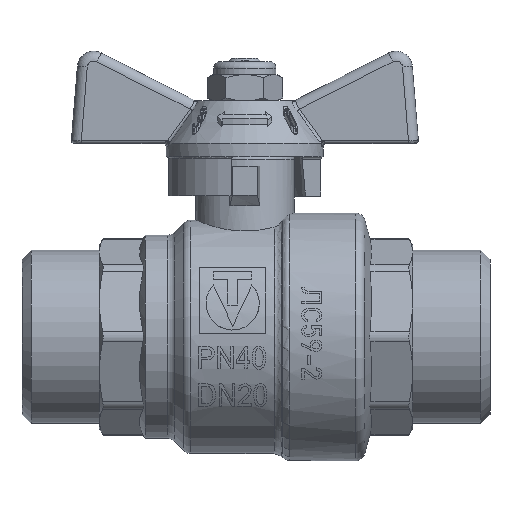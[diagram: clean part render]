
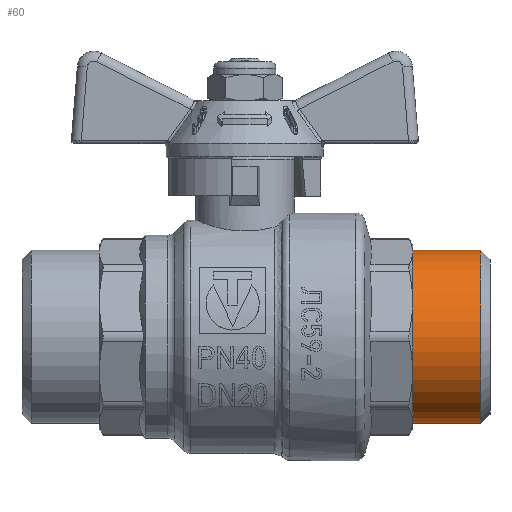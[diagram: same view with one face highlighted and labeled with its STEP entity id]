
A CAD part, top view. The second image highlights one B-rep face of the part: STEP entity #60.
In plain terms, the highlighted cylindrical face has radius 13.22 mm (diameter 26.441 mm), a full revolution.
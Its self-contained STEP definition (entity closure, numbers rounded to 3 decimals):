
#60=ADVANCED_FACE('',(#1845,#1847),#1849,.T.);
#1845=FACE_OUTER_BOUND('',#1846,.T.);
#1846=EDGE_LOOP('',(#14951));
#1847=FACE_OUTER_BOUND('',#1848,.T.);
#1848=EDGE_LOOP('',(#14952));
#1849=CYLINDRICAL_SURFACE('',#1850,13.221);
#1850=AXIS2_PLACEMENT_3D('',#1851,#1852,#1853);
#1851=CARTESIAN_POINT('',(7.5,0.,0.));
#1852=DIRECTION('',(1.,0.,0.));
#1853=DIRECTION('',(0.,1.,0.));
#14951=ORIENTED_EDGE('',*,*,#25018,.T.);
#14952=ORIENTED_EDGE('',*,*,#25020,.F.);
#25018=EDGE_CURVE('',#29901,#29901,#29902,.F.);
#25020=EDGE_CURVE('',#29905,#29905,#29906,.T.);
#29901=VERTEX_POINT('',#38039);
#29902=CIRCLE('',#38040,13.221);
#29905=VERTEX_POINT('',#38049);
#29906=CIRCLE('',#38050,13.221);
#38039=CARTESIAN_POINT('',(36.,13.221,0.));
#38040=AXIS2_PLACEMENT_3D('',#38041,#38042,#38043);
#38041=CARTESIAN_POINT('',(36.,0.,0.));
#38042=DIRECTION('',(1.,0.,0.));
#38043=DIRECTION('',(0.,1.,0.));
#38049=CARTESIAN_POINT('',(25.6,13.221,0.));
#38050=AXIS2_PLACEMENT_3D('',#38051,#38052,#38053);
#38051=CARTESIAN_POINT('',(25.6,0.,0.));
#38052=DIRECTION('',(-1.,0.,0.));
#38053=DIRECTION('',(0.,1.,0.));
